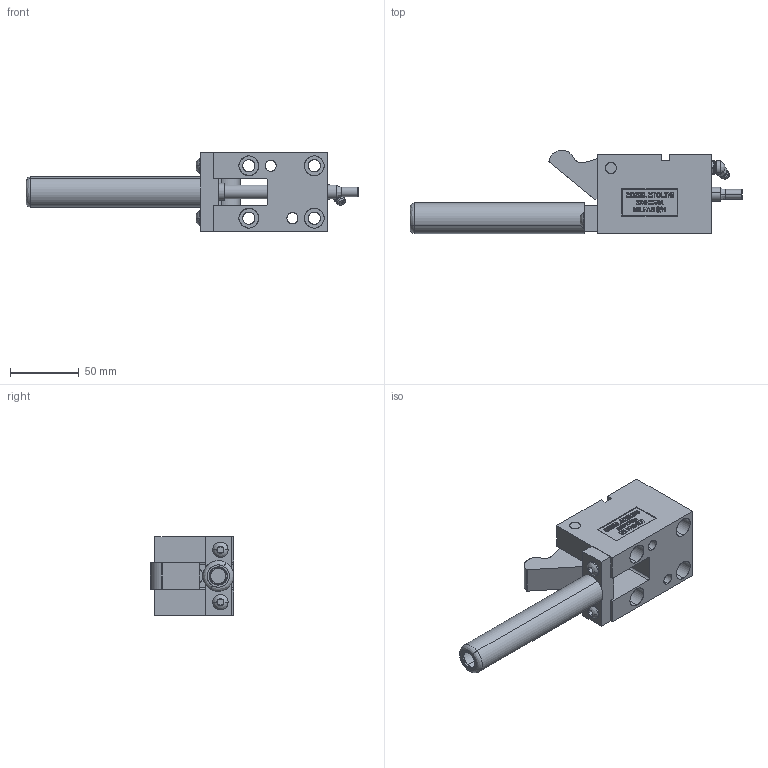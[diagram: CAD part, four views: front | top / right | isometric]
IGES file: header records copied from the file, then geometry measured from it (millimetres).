
Start section: SolidWorks IGES file using analytic representation for surfaces
Global section: file name: Y:\METRIC With OFFSETRIGGER\TOPMOUNT\MTOL37545\OPEN\MTOL37545-O.IGS; native system: SolidWorks 2006 by SolidWorks Corporation; preprocessor: SolidWorks 2006 by SolidWorks Corporation; author: Jim; date: 090120.175935; units: inch
Bounding box: 241.3 x 60.44 x 57.15 mm (x, y, z)
Surface area: 74946.4 mm2 (no closed solid volume)
Topology: 0 solids, 0 shells, 602 faces, 7237 edges, 7233 vertices
Faces by surface type: bspline 478, revolution 124
